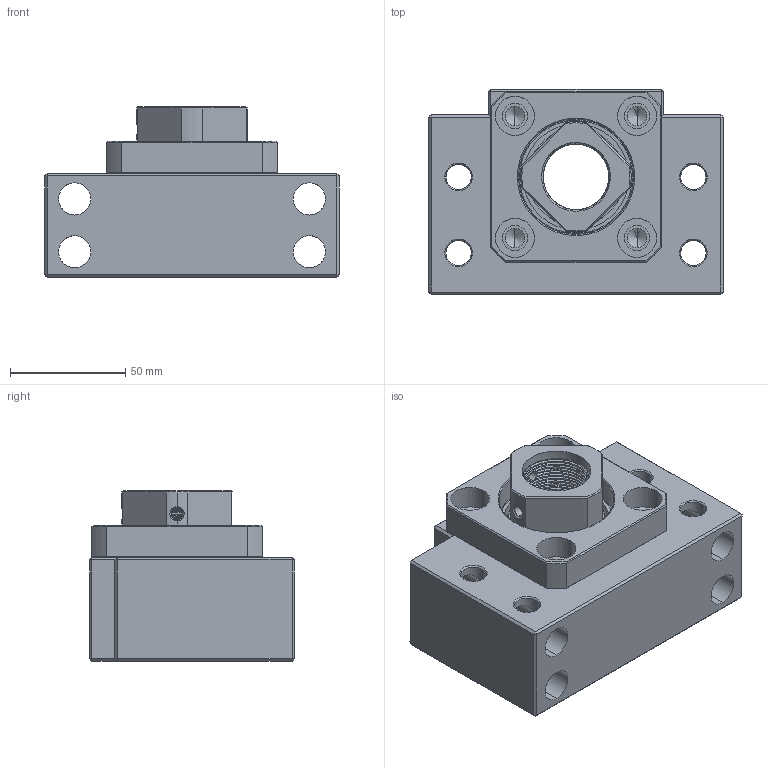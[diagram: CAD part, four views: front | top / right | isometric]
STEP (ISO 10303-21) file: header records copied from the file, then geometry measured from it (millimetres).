
FILE_DESCRIPTION (( 'STEP AP214' ), '1' );
FILE_NAME ('2.4040_Kuularuuvin_tukilaakeri_BK30.STEP', '2025-07-23T06:55:41', ( '' ), ( '' ), 'SwSTEP 2.0', 'SolidWorks 2024', '' );
FILE_SCHEMA (( 'AUTOMOTIVE_DESIGN' ));
Length unit declared in the file: millimetre
Products named in the file (1): 2.4040_Kuularuuvin_tukilaakeri_BK30
Bounding box: 128 x 89 x 74 mm (x, y, z)
Volume: 414793.4 mm3; surface area: 131492.7 mm2
Topology: 37 solids, 37 shells, 506 faces, 1306 edges, 758 vertices
Faces by surface type: cylinder 168, bspline 158, plane 104, cone 76
Entity records: 27353 total; most frequent: CARTESIAN_POINT 12546, ORIENTED_EDGE 2384, DIRECTION 1952, EDGE_CURVE 1192, AXIS2_PLACEMENT_3D 791, VERTEX_POINT 756, EDGE_LOOP 568, ADVANCED_FACE 506
